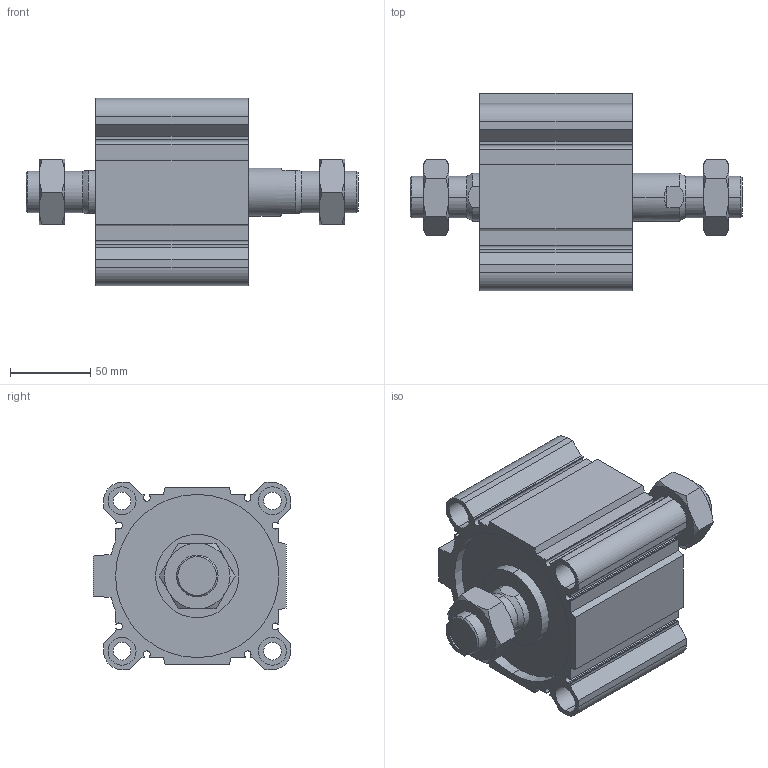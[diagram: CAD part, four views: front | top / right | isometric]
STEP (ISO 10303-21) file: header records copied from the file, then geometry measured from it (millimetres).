
FILE_DESCRIPTION (( 'STEP AP203' ), '1' );
FILE_NAME ('CCMB100-25M-P.STEP', '2020-08-10T11:58:32', ( '' ), ( '' ), 'SwSTEP 2.0', 'SolidWorks 2019', '' );
FILE_SCHEMA (( 'CONFIG_CONTROL_DESIGN' ));
Length unit declared in the file: millimetre
Products named in the file (1): CCMB100-25M-P
Bounding box: 207.5 x 123.5 x 117 mm (x, y, z)
Volume: 939123.5 mm3; surface area: 195619.4 mm2
Topology: 4 solids, 4 shells, 230 faces, 568 edges, 364 vertices
Faces by surface type: plane 106, cylinder 80, cone 44
Entity records: 7879 total; most frequent: CARTESIAN_POINT 2279, DIRECTION 1166, ORIENTED_EDGE 1136, EDGE_CURVE 568, AXIS2_PLACEMENT_3D 431, VERTEX_POINT 364, VECTOR 304, LINE 304
